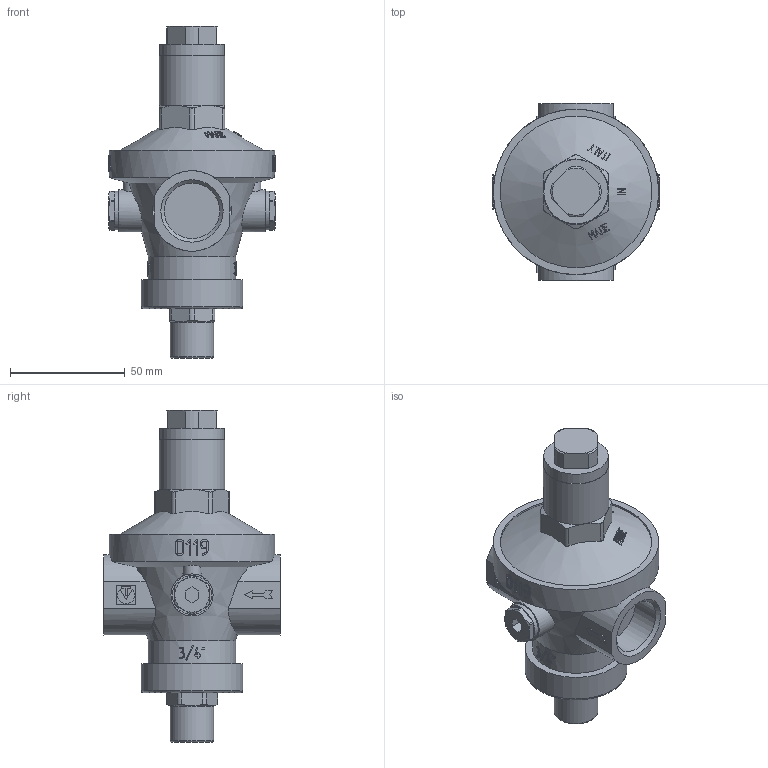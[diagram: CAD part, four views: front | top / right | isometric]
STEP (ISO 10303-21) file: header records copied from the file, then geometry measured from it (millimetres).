
FILE_DESCRIPTION(('STEP AP242'), '1');
FILE_NAME('VT.085.N.0507', '', ('UNSPECIFIED'), ('UNSPECIFIED'), 'C3D Converter', 'C3D Toolkit', '');
FILE_SCHEMA(('AP242_MANAGED_MODEL_BASED_3D_ENGINEERING_MIM_LF { 1 0 10303 442 1 1 4 }'));
Length unit declared in the file: millimetre
Bounding box: 73 x 77 x 144.5 mm (x, y, z)
Volume: 213018.1 mm3; surface area: 31162.4 mm2
Topology: 1 solids, 1 shells, 834 faces, 2319 edges, 1543 vertices
Faces by surface type: extrusion 389, plane 342, cylinder 58, cone 43, torus 2
Full cylindrical faces by diameter (mm): 17 x2, 18.3 x2, 19 x1, 24.118 x2, 28 x1, 28.5 x1, 38 x1, 44.3 x1, 66 x1, 72 x1
Entity records: 40343 total; most frequent: CARTESIAN_POINT 21183, ORIENTED_EDGE 4578, DIRECTION 2619, EDGE_CURVE 2289, VERTEX_POINT 1531, B_SPLINE_CURVE_WITH_KNOTS 1421, VECTOR 1357, LINE 968
